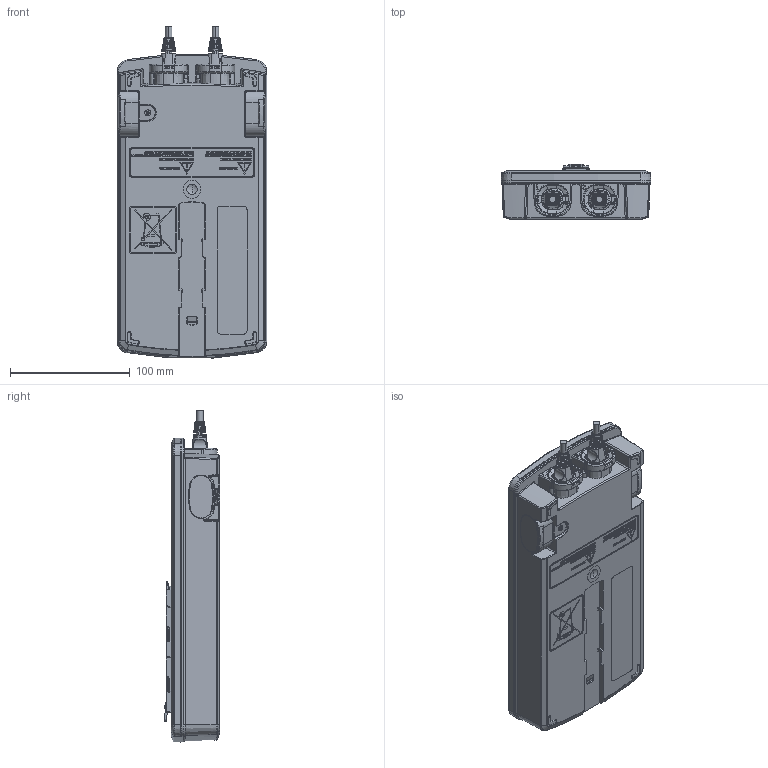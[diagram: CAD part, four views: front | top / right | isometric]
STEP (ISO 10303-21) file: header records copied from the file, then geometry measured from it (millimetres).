
FILE_DESCRIPTION((''),'2;1');
FILE_NAME('1072W4000_ASM','2022-06-28T08:40:14',('edz'),(''),'CREO PARAMETRIC BY PTC INC, 2022024','CREO PARAMETRIC BY PTC INC, 2022024','');
FILE_SCHEMA(('AUTOMOTIVE_DESIGN { 1 0 10303 214 1 1 1 1 }'));
Length unit declared in the file: millimetre
Products named in the file (4): 1072W4000-1072W9001; SHELL-0273011; 0961006; 1072W4000_ASM
Assembly tree (5 placements, depth 2):
  1072W4000_ASM
    1072W4000-1072W9001
    SHELL-0273011  x2
    0961006  x2
Bounding box: 125 x 46.61 x 277.55 mm (x, y, z)
Volume: 1172279.5 mm3; surface area: 116776.7 mm2
Topology: 5 solids, 7 shells, 6654 faces, 17477 edges, 11140 vertices
Faces by surface type: plane 2696, extrusion 1341, cylinder 966, torus 700, bspline 629, cone 272, sphere 50
Entity records: 260114 total; most frequent: CARTESIAN_POINT 75023, ORIENTED_EDGE 31194, DIRECTION 23471, PRESENTATION_STYLE_ASSIGNMENT 15600, STYLED_ITEM 15600, CURVE_STYLE 15597, EDGE_CURVE 15597, VECTOR 10339
